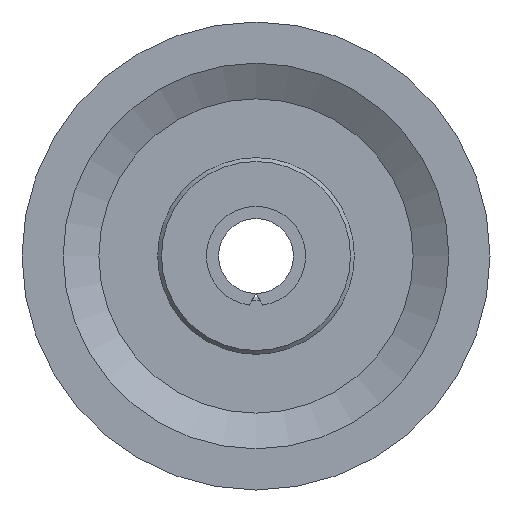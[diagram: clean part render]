
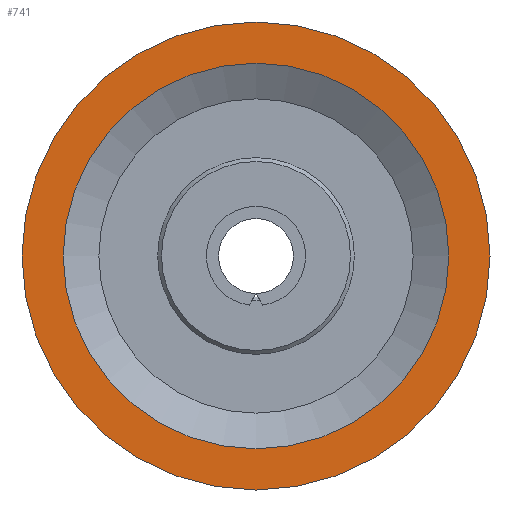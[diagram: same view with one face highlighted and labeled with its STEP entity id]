
A CAD part, left-side view. The second image highlights one B-rep face of the part: STEP entity #741.
In plain terms, the highlighted planar face has unit normal (-1, 0, 0).
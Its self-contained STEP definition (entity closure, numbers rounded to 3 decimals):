
#51=FACE_BOUND('',#144,.T.);
#57=PLANE('',#908);
#98=FACE_OUTER_BOUND('',#143,.T.);
#143=EDGE_LOOP('',(#592,#593));
#144=EDGE_LOOP('',(#594,#595));
#272=CIRCLE('',#884,125.);
#273=CIRCLE('',#885,125.);
#287=CIRCLE('',#906,103.);
#288=CIRCLE('',#907,103.);
#335=VERTEX_POINT('',#1293);
#336=VERTEX_POINT('',#1295);
#350=VERTEX_POINT('',#1336);
#351=VERTEX_POINT('',#1338);
#417=EDGE_CURVE('',#335,#336,#272,.T.);
#418=EDGE_CURVE('',#336,#335,#273,.T.);
#438=EDGE_CURVE('',#351,#350,#287,.T.);
#439=EDGE_CURVE('',#350,#351,#288,.T.);
#592=ORIENTED_EDGE('',*,*,#418,.F.);
#593=ORIENTED_EDGE('',*,*,#417,.F.);
#594=ORIENTED_EDGE('',*,*,#438,.T.);
#595=ORIENTED_EDGE('',*,*,#439,.T.);
#741=ADVANCED_FACE('',(#98,#51),#57,.T.);
#884=AXIS2_PLACEMENT_3D('',#1296,#1043,#1044);
#885=AXIS2_PLACEMENT_3D('',#1297,#1045,#1046);
#906=AXIS2_PLACEMENT_3D('',#1339,#1093,#1094);
#907=AXIS2_PLACEMENT_3D('',#1340,#1095,#1096);
#908=AXIS2_PLACEMENT_3D('',#1341,#1097,#1098);
#1043=DIRECTION('center_axis',(1.,0.,0.));
#1044=DIRECTION('ref_axis',(0.,0.,-1.));
#1045=DIRECTION('center_axis',(1.,0.,0.));
#1046=DIRECTION('ref_axis',(0.,0.,-1.));
#1093=DIRECTION('center_axis',(1.,0.,0.));
#1094=DIRECTION('ref_axis',(0.,0.,-1.));
#1095=DIRECTION('center_axis',(1.,0.,0.));
#1096=DIRECTION('ref_axis',(0.,0.,-1.));
#1097=DIRECTION('center_axis',(-1.,0.,0.));
#1098=DIRECTION('ref_axis',(0.,0.,1.));
#1293=CARTESIAN_POINT('',(-18.,-125.,0.));
#1295=CARTESIAN_POINT('',(-18.,125.,0.));
#1296=CARTESIAN_POINT('Origin',(-18.,0.,0.));
#1297=CARTESIAN_POINT('Origin',(-18.,0.,0.));
#1336=CARTESIAN_POINT('',(-18.,-103.,0.));
#1338=CARTESIAN_POINT('',(-18.,103.,0.));
#1339=CARTESIAN_POINT('Origin',(-18.,0.,0.));
#1340=CARTESIAN_POINT('Origin',(-18.,0.,0.));
#1341=CARTESIAN_POINT('Origin',(-18.,125.,0.));
